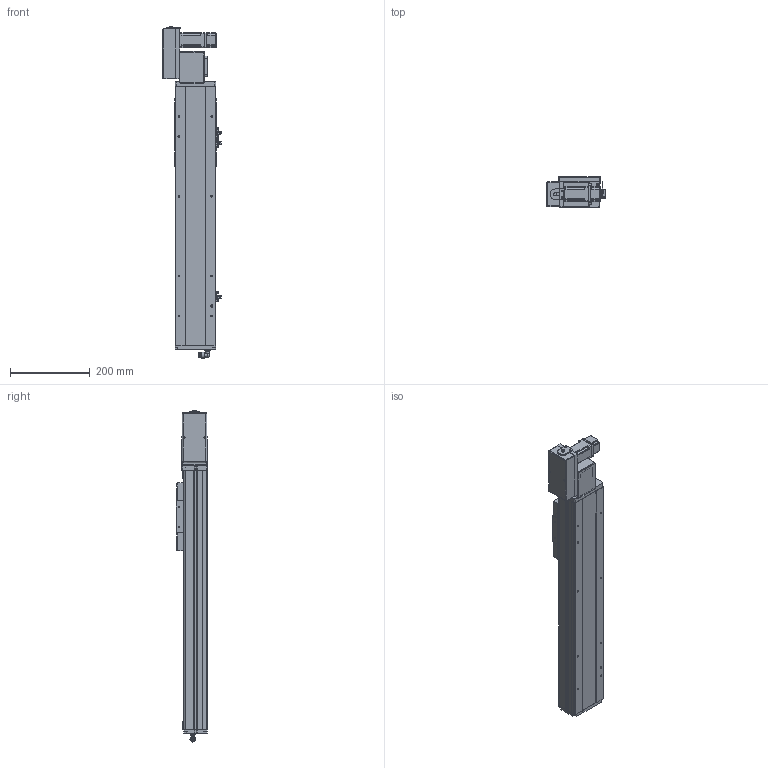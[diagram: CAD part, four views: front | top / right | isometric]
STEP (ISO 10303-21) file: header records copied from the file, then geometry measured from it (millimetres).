
FILE_DESCRIPTION (( 'STEP AP214' ), '1' );
FILE_NAME ('TPE10-L32-400-L-T10-C4.STEP', '2023-03-13T05:59:04', ( '' ), ( '' ), 'SwSTEP 2.0', 'SolidWorks 2020', '' );
FILE_SCHEMA (( 'AUTOMOTIVE_DESIGN' ));
Length unit declared in the file: millimetre
Products named in the file (15): 葩璃 TPF10 詩湍揤啣 TPF10 12^TPE10-L32-L-T10-C4; TPE10-L32-400-L-T10-C4; 葩璃 侂狟100W^TPE10-L32-L-T10-C4; 葩璃 TPE10-007 々湍釱MZ-169x88^TPE10-L32-L-T10-C4; 葩璃 PL8-02^TPE10-L32-L-T10-C4; 葩璃 TPE10-L-001 菁釱MZ-102A-01^TPE10-L32-L-T10-C4; 葩璃 TPT10-L-009 萇儂啣^TPE10-L32-L-T10-C4_100W; 葩璃 TPF10-L-008 耜醱啣^TPE10-L32-L-T10-C4; hexagon socket head cap screws gb_GB_FASTENER_SCREWS_HSHCS M3X6-N; hexagon head bolts-full thread gb_GB_FASTENER_BOLT_STBAB A M5X16-N; 葩璃 詩湍75^TPE10-L32-L-T10-C4; 葩璃 TPE10 賑雄殤 TPE10^TPE10-L32-L-T10-C4; 葩璃 TPE10-L-002 耜裔ZTMT-102B-04^TPE10-L32-L-T10-C4; hex nuts, style 1-grades ab gb_GB_FASTENER_NUT_SNAB1 M3-N; 葩璃 pm-t65-672^TPE10-L32-L-T10-C4
Assembly tree (28 placements, depth 2):
  TPE10-L32-400-L-T10-C4
    葩璃 TPE10-L-001 菁釱MZ-102A-01^TPE10-L32-L-T10-C4
    葩璃 TPE10-L-002 耜裔ZTMT-102B-04^TPE10-L32-L-T10-C4  x2
    葩璃 詩湍75^TPE10-L32-L-T10-C4
    葩璃 TPE10-007 々湍釱MZ-169x88^TPE10-L32-L-T10-C4
    葩璃 TPF10-L-008 耜醱啣^TPE10-L32-L-T10-C4
    葩璃 TPE10 賑雄殤 TPE10^TPE10-L32-L-T10-C4
    葩璃 TPF10 詩湍揤啣 TPF10 12^TPE10-L32-L-T10-C4  x2
    葩璃 TPT10-L-009 萇儂啣^TPE10-L32-L-T10-C4_100W
    葩璃 pm-t65-672^TPE10-L32-L-T10-C4  x3
    葩璃 PL8-02^TPE10-L32-L-T10-C4
    葩璃 侂狟100W^TPE10-L32-L-T10-C4
    hexagon socket head cap screws gb_GB_FASTENER_SCREWS_HSHCS M3X6-N  x6
    hex nuts, style 1-grades ab gb_GB_FASTENER_NUT_SNAB1 M3-N  x6
    hexagon head bolts-full thread gb_GB_FASTENER_BOLT_STBAB A M5X16-N
Bounding box: 146.2 x 78.5 x 832 mm (x, y, z)
Volume: 2527448.5 mm3; surface area: 707847.9 mm2
Topology: 36 solids, 36 shells, 1596 faces, 4066 edges, 2574 vertices
Faces by surface type: plane 899, cylinder 477, cone 168, torus 26, bspline 24, sphere 2
Entity records: 37004 total; most frequent: CARTESIAN_POINT 7783, DIRECTION 5796, ORIENTED_EDGE 5616, EDGE_CURVE 2808, AXIS2_PLACEMENT_3D 2037, VERTEX_POINT 1801, LINE 1722, VECTOR 1722
